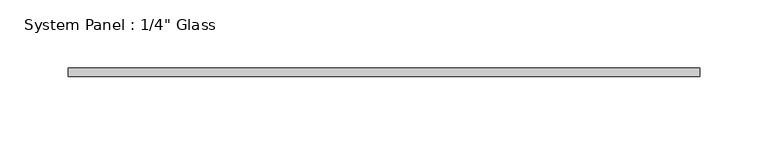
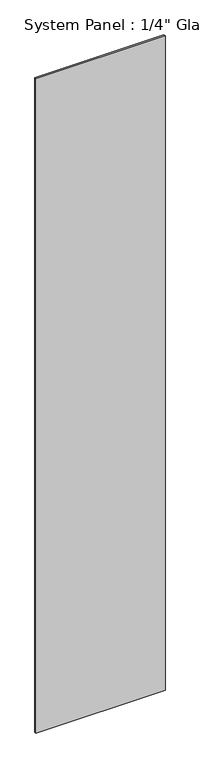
"""IFC4 building model written with IfcOpenShell, lengths in millimetres: plate geometry."""

from ifc_helpers import new_model, si_unit, origin, origin_with_axes, place, context, project, spatial, polyline, outline, extrude, source, transform, mapped, element, save


def plate_c01932d8(model_context):
    return source(origin(), model_context, "Body", "SweptSolid", [
        extrude(outline(polyline([(232.1925974, -3.175), (-232.1925974, -3.175), (-232.1925974, 3.175), (232.1925974, 3.175), (232.1925974, -3.175)])), origin_with_axes(), (0.0, 0.0, 1.0), 2489.2),
    ])


if __name__ == "__main__":
    model = new_model("IFC4")
    model_context = context("Model", 3, world=origin())
    ifc_project = project(units=[si_unit("LENGTHUNIT", "METRE", prefix="MILLI")], contexts=[model_context])
    site = spatial("IfcSite", under=ifc_project)
    building = spatial("IfcBuilding", under=site)
    placement = place(None, origin())
    plate_shape = plate_c01932d8(model_context)
    element("IfcPlate", 1, ObjectType="System Panel : 1/4\" Glass", at=placement, inside=building, context=model_context, shape_type="MappedRepresentation", body=[
        mapped(plate_shape, transform((0.0, 0.0, 0.0), x_axis=(1.0, 0.0, 0.0), y_axis=(0.0, 1.0, 0.0), z_axis=(0.0, 0.0, 1.0))),
    ])
    save(model, "model.ifc")
